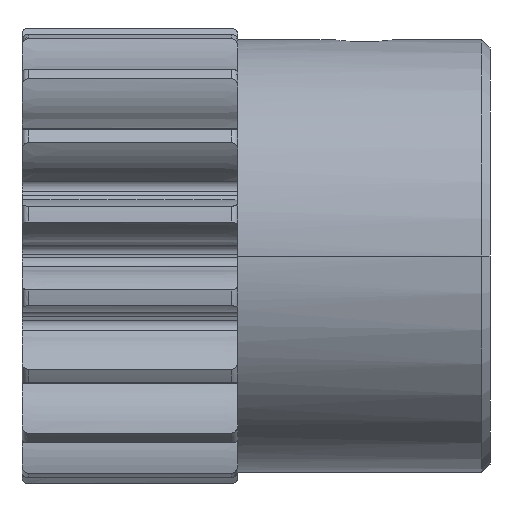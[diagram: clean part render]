
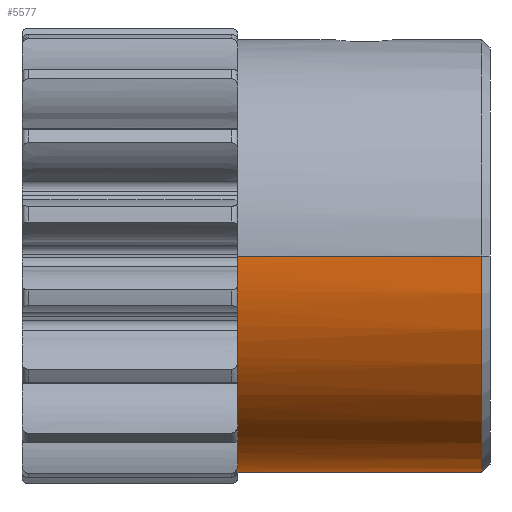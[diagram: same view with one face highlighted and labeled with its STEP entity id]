
A CAD part, front view. The second image highlights one B-rep face of the part: STEP entity #5577.
In plain terms, the highlighted cylindrical face has radius 4.763 mm (diameter 9.525 mm), a partial arc.
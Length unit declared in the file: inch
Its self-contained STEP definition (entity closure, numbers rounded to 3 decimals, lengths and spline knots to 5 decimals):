
#170=CARTESIAN_POINT('',(0.0935,0.17898,-0.05587));
#185=CARTESIAN_POINT('',(0.0935,0.,0.));
#186=DIRECTION('',(-1.,0.,0.));
#187=DIRECTION('',(0.,0.998,-0.067));
#188=AXIS2_PLACEMENT_3D('',#185,#186,#187);
#203=CARTESIAN_POINT('',(0.0935,0.18708,-0.01256));
#220=CARTESIAN_POINT('',(0.0935,0.14671,-0.11675));
#235=CARTESIAN_POINT('',(0.0935,0.,0.));
#236=DIRECTION('',(-1.,0.,0.));
#237=DIRECTION('',(0.,0.906,-0.423));
#238=AXIS2_PLACEMENT_3D('',#235,#236,#237);
#253=CARTESIAN_POINT('',(0.0935,0.16991,-0.07929));
#285=CARTESIAN_POINT('',(0.0935,0.,0.));
#286=DIRECTION('',(-1.,0.,0.));
#287=DIRECTION('',(0.,0.692,-0.722));
#288=AXIS2_PLACEMENT_3D('',#285,#286,#287);
#303=CARTESIAN_POINT('',(0.0935,0.12979,-0.13532));
#585=CARTESIAN_POINT('',(0.0935,0.,0.));
#586=DIRECTION('',(-1.,0.,0.));
#587=DIRECTION('',(0.,-0.993,-0.117));
#588=AXIS2_PLACEMENT_3D('',#585,#586,#587);
#635=CARTESIAN_POINT('',(0.0935,0.,0.));
#636=DIRECTION('',(-1.,0.,0.));
#637=DIRECTION('',(0.,-0.884,-0.468));
#638=AXIS2_PLACEMENT_3D('',#635,#636,#637);
#685=CARTESIAN_POINT('',(0.0935,0.,0.));
#686=DIRECTION('',(-1.,0.,0.));
#687=DIRECTION('',(0.,-0.655,-0.756));
#688=AXIS2_PLACEMENT_3D('',#685,#686,#687);
#735=CARTESIAN_POINT('',(0.0935,0.,0.));
#736=DIRECTION('',(-1.,0.,0.));
#737=DIRECTION('',(0.,-0.337,-0.941));
#738=AXIS2_PLACEMENT_3D('',#735,#736,#737);
#785=CARTESIAN_POINT('',(0.0935,0.,0.));
#786=DIRECTION('',(-1.,0.,0.));
#787=DIRECTION('',(0.,0.025,-1.));
#788=AXIS2_PLACEMENT_3D('',#785,#786,#787);
#835=CARTESIAN_POINT('',(0.0935,0.,0.));
#836=DIRECTION('',(-1.,0.,0.));
#837=DIRECTION('',(0.,0.385,-0.923));
#838=AXIS2_PLACEMENT_3D('',#835,#836,#837);
#1125=CARTESIAN_POINT('',(0.0935,0.,0.));
#1126=DIRECTION('',(1.,0.,0.));
#1127=DIRECTION('',(0.,0.998,-0.067));
#1128=AXIS2_PLACEMENT_3D('',#1125,#1126,#1127);
#1130=CARTESIAN_POINT('',(0.0935,0.,0.));
#1131=DIRECTION('',(1.,0.,0.));
#1132=DIRECTION('',(0.,-0.993,-0.117));
#1133=AXIS2_PLACEMENT_3D('',#1130,#1131,#1132);
#1154=CARTESIAN_POINT('',(0.0935,0.,0.));
#1155=DIRECTION('',(1.,0.,0.));
#1156=DIRECTION('',(0.,-0.884,-0.468));
#1157=AXIS2_PLACEMENT_3D('',#1154,#1155,#1156);
#1178=CARTESIAN_POINT('',(0.0935,0.,0.));
#1179=DIRECTION('',(1.,0.,0.));
#1180=DIRECTION('',(0.,-0.655,-0.756));
#1181=AXIS2_PLACEMENT_3D('',#1178,#1179,#1180);
#1221=CARTESIAN_POINT('',(0.0935,0.,0.));
#1222=DIRECTION('',(1.,0.,0.));
#1223=DIRECTION('',(0.,0.906,-0.423));
#1224=AXIS2_PLACEMENT_3D('',#1221,#1222,#1223);
#1245=CARTESIAN_POINT('',(0.0935,0.,0.));
#1246=DIRECTION('',(1.,0.,0.));
#1247=DIRECTION('',(0.,0.692,-0.722));
#1248=AXIS2_PLACEMENT_3D('',#1245,#1246,#1247);
#1442=CARTESIAN_POINT('',(0.0935,0.,0.));
#1443=DIRECTION('',(1.,0.,0.));
#1444=DIRECTION('',(0.,-0.337,-0.941));
#1445=AXIS2_PLACEMENT_3D('',#1442,#1443,#1444);
#1466=CARTESIAN_POINT('',(0.0935,0.,0.));
#1467=DIRECTION('',(1.,0.,0.));
#1468=DIRECTION('',(0.,0.025,-1.));
#1469=AXIS2_PLACEMENT_3D('',#1466,#1467,#1468);
#1490=CARTESIAN_POINT('',(0.0935,0.,0.));
#1491=DIRECTION('',(1.,0.,0.));
#1492=DIRECTION('',(0.,0.385,-0.923));
#1493=AXIS2_PLACEMENT_3D('',#1490,#1491,#1492);
#1608=CARTESIAN_POINT('',(0.1411,0.1875,
0.));
#1609=CARTESIAN_POINT('',(0.1411,0.1875,
-0.00398));
#1610=CARTESIAN_POINT('',(0.14181,0.18725,
-0.01184));
#1611=CARTESIAN_POINT('',(0.14499,0.18615,
-0.0234));
#1612=CARTESIAN_POINT('',(0.15023,0.18446,
-0.03418));
#1613=CARTESIAN_POINT('',(0.15738,0.18238,
-0.04383));
#1614=CARTESIAN_POINT('',(0.16626,0.1802,
-0.05199));
#1615=CARTESIAN_POINT('',(0.17627,0.17828,
-0.05814));
#1616=CARTESIAN_POINT('',(0.18683,0.17691,
-0.06216));
#1617=CARTESIAN_POINT('',(0.19766,0.17619,
-0.06413));
#1618=CARTESIAN_POINT('',(0.20854,0.17619,
-0.06413));
#1619=CARTESIAN_POINT('',(0.21936,0.17691,
-0.06216));
#1620=CARTESIAN_POINT('',(0.22993,0.17828,
-0.05814));
#1621=CARTESIAN_POINT('',(0.23994,0.1802,
-0.052));
#1622=CARTESIAN_POINT('',(0.24882,0.18238,
-0.04383));
#1623=CARTESIAN_POINT('',(0.25597,0.18446,
-0.03418));
#1624=CARTESIAN_POINT('',(0.26121,0.18615,
-0.0234));
#1625=CARTESIAN_POINT('',(0.26439,0.18725,
-0.01184));
#1626=CARTESIAN_POINT('',(0.2651,0.1875,
-0.00399));
#1627=CARTESIAN_POINT('',(0.2651,0.1875,
0.));
#1659=DIRECTION('',(-1.,0.,0.));
#1660=VECTOR('',#1659,0.0476);
#1661=CARTESIAN_POINT('',(0.1411,0.1875,
0.));
#1662=LINE('',#1661,#1660);
#1663=DIRECTION('',(-1.,0.,0.));
#1664=VECTOR('',#1663,0.21198);
#1665=CARTESIAN_POINT('',(0.30548,-0.1875,0.));
#1666=LINE('',#1665,#1664);
#1667=CARTESIAN_POINT('',(0.30548,0.,0.));
#1668=DIRECTION('',(-1.,0.,0.));
#1669=DIRECTION('',(0.,1.,0.));
#1670=AXIS2_PLACEMENT_3D('',#1667,#1668,#1669);
#1672=DIRECTION('',(-1.,0.,0.));
#1673=VECTOR('',#1672,0.04038);
#1674=CARTESIAN_POINT('',(0.30548,0.1875,0.));
#1675=LINE('',#1674,#1673);
#4164=CARTESIAN_POINT('',(0.30548,0.1875,0.));
#4166=VERTEX_POINT('',#4164);
#4168=CARTESIAN_POINT('',(0.30548,-0.1875,0.));
#4170=VERTEX_POINT('',#4168);
#4171=CARTESIAN_POINT('',(0.0935,-0.1875,0.));
#4172=VERTEX_POINT('',#4171);
#4173=CARTESIAN_POINT('',(0.0935,0.1875,0.));
#4175=VERTEX_POINT('',#4173);
#4177=CARTESIAN_POINT('',(0.0935,-0.1862,-0.02203));
#4178=CARTESIAN_POINT('',(0.0935,-0.18159,-0.04672));
#4179=VERTEX_POINT('',#4177);
#4180=VERTEX_POINT('',#4178);
#4181=CARTESIAN_POINT('',(0.0935,-0.16567,-0.08781));
#4182=CARTESIAN_POINT('',(0.0935,-0.15245,-0.10916));
#4183=VERTEX_POINT('',#4181);
#4184=VERTEX_POINT('',#4182);
#4185=CARTESIAN_POINT('',(0.0935,-0.12276,-0.14172));
#4186=CARTESIAN_POINT('',(0.0935,-0.10272,-0.15686));
#4187=VERTEX_POINT('',#4185);
#4188=VERTEX_POINT('',#4186);
#4206=VERTEX_POINT('',#203);
#4207=VERTEX_POINT('',#170);
#4215=VERTEX_POINT('',#253);
#4216=VERTEX_POINT('',#220);
#4224=VERTEX_POINT('',#303);
#4227=CARTESIAN_POINT('',(0.0935,0.09463,-0.16187));
#4228=VERTEX_POINT('',#4227);
#4231=VERTEX_POINT('',#1608);
#4232=VERTEX_POINT('',#1627);
#4273=CARTESIAN_POINT('',(0.0935,-0.06328,-0.1765));
#4274=CARTESIAN_POINT('',(0.0935,-0.03912,-0.18337));
#4275=VERTEX_POINT('',#4273);
#4276=VERTEX_POINT('',#4274);
#4277=CARTESIAN_POINT('',(0.0935,0.00476,-0.18744));
#4278=CARTESIAN_POINT('',(0.0935,0.02977,-0.18512));
#4279=VERTEX_POINT('',#4277);
#4280=VERTEX_POINT('',#4278);
#4281=CARTESIAN_POINT('',(0.0935,0.07215,-0.17306));
#4282=VERTEX_POINT('',#4281);
#5546=CARTESIAN_POINT('',(-0.01563,0.,0.));
#5547=DIRECTION('',(1.,0.,0.));
#5548=DIRECTION('',(0.,-1.,0.));
#5549=AXIS2_PLACEMENT_3D('',#5546,#5547,#5548);
#5550=CYLINDRICAL_SURFACE('',#5549,0.1875);
#5551=ORIENTED_EDGE('',*,*,#5537,.F.);
#5552=ORIENTED_EDGE('',*,*,#5338,.T.);
#5553=ORIENTED_EDGE('',*,*,#5047,.F.);
#5554=ORIENTED_EDGE('',*,*,#4460,.T.);
#5555=ORIENTED_EDGE('',*,*,#5111,.F.);
#5556=ORIENTED_EDGE('',*,*,#4480,.T.);
#5557=ORIENTED_EDGE('',*,*,#5127,.F.);
#5558=ORIENTED_EDGE('',*,*,#4500,.T.);
#5559=ORIENTED_EDGE('',*,*,#5296,.F.);
#5560=ORIENTED_EDGE('',*,*,#4719,.T.);
#5561=ORIENTED_EDGE('',*,*,#5280,.F.);
#5562=ORIENTED_EDGE('',*,*,#4699,.T.);
#5563=ORIENTED_EDGE('',*,*,#5264,.F.);
#5564=ORIENTED_EDGE('',*,*,#4679,.T.);
#5565=ORIENTED_EDGE('',*,*,#5089,.F.);
#5566=ORIENTED_EDGE('',*,*,#4659,.T.);
#5567=ORIENTED_EDGE('',*,*,#5073,.F.);
#5568=ORIENTED_EDGE('',*,*,#4639,.T.);
#5569=ORIENTED_EDGE('',*,*,#5057,.F.);
#5570=ORIENTED_EDGE('',*,*,#4619,.T.);
#5571=ORIENTED_EDGE('',*,*,#5318,.F.);
#5573=ORIENTED_EDGE('',*,*,#5572,.F.);
#5574=ORIENTED_EDGE('',*,*,#5314,.T.);
#5575=EDGE_LOOP('',(#5551,#5552,#5553,#5554,#5555,#5556,#5557,#5558,#5559,#5560,
#5561,#5562,#5563,#5564,#5565,#5566,#5567,#5568,#5569,#5570,#5571,#5573,#5574));
#5576=FACE_OUTER_BOUND('',#5575,.F.);
#5577=ADVANCED_FACE('',(#5576),#5550,.T.);
#189=CIRCLE('',#188,0.1875);
#239=CIRCLE('',#238,0.1875);
#289=CIRCLE('',#288,0.1875);
#589=CIRCLE('',#588,0.1875);
#639=CIRCLE('',#638,0.1875);
#689=CIRCLE('',#688,0.1875);
#739=CIRCLE('',#738,0.1875);
#789=CIRCLE('',#788,0.1875);
#839=CIRCLE('',#838,0.1875);
#1129=CIRCLE('',#1128,0.1875);
#1134=CIRCLE('',#1133,0.1875);
#1158=CIRCLE('',#1157,0.1875);
#1182=CIRCLE('',#1181,0.1875);
#1225=CIRCLE('',#1224,0.1875);
#1249=CIRCLE('',#1248,0.1875);
#1446=CIRCLE('',#1445,0.1875);
#1470=CIRCLE('',#1469,0.1875);
#1494=CIRCLE('',#1493,0.1875);
#1628=B_SPLINE_CURVE_WITH_KNOTS('',3,(#1608,#1609,#1610,#1611,#1612,#1613,#1614,
#1615,#1616,#1617,#1618,#1619,#1620,#1621,#1622,#1623,#1624,#1625,#1626,#1627),
.UNSPECIFIED.,.F.,.F.,(4,1,1,1,1,1,1,1,1,1,1,1,1,1,1,1,1,4),(0.,
0.05882,0.11765,0.17647,0.23529,
0.29412,0.35294,0.41176,0.47059,
0.52941,0.58824,0.64706,0.70588,
0.76471,0.82353,0.88235,0.94118,1.),
.UNSPECIFIED.);
#1671=CIRCLE('',#1670,0.1875);
#4460=EDGE_CURVE('',#4206,#4207,#189,.T.);
#4480=EDGE_CURVE('',#4215,#4216,#239,.T.);
#4500=EDGE_CURVE('',#4224,#4228,#289,.T.);
#4619=EDGE_CURVE('',#4179,#4172,#589,.T.);
#4639=EDGE_CURVE('',#4183,#4180,#639,.T.);
#4659=EDGE_CURVE('',#4187,#4184,#689,.T.);
#4679=EDGE_CURVE('',#4275,#4188,#739,.T.);
#4699=EDGE_CURVE('',#4279,#4276,#789,.T.);
#4719=EDGE_CURVE('',#4282,#4280,#839,.T.);
#5047=EDGE_CURVE('',#4206,#4175,#1129,.T.);
#5057=EDGE_CURVE('',#4179,#4180,#1134,.T.);
#5073=EDGE_CURVE('',#4183,#4184,#1158,.T.);
#5089=EDGE_CURVE('',#4187,#4188,#1182,.T.);
#5111=EDGE_CURVE('',#4215,#4207,#1225,.T.);
#5127=EDGE_CURVE('',#4224,#4216,#1249,.T.);
#5264=EDGE_CURVE('',#4275,#4276,#1446,.T.);
#5280=EDGE_CURVE('',#4279,#4280,#1470,.T.);
#5296=EDGE_CURVE('',#4282,#4228,#1494,.T.);
#5314=EDGE_CURVE('',#4166,#4232,#1675,.T.);
#5318=EDGE_CURVE('',#4170,#4172,#1666,.T.);
#5338=EDGE_CURVE('',#4231,#4175,#1662,.T.);
#5537=EDGE_CURVE('',#4231,#4232,#1628,.T.);
#5572=EDGE_CURVE('',#4166,#4170,#1671,.T.);
